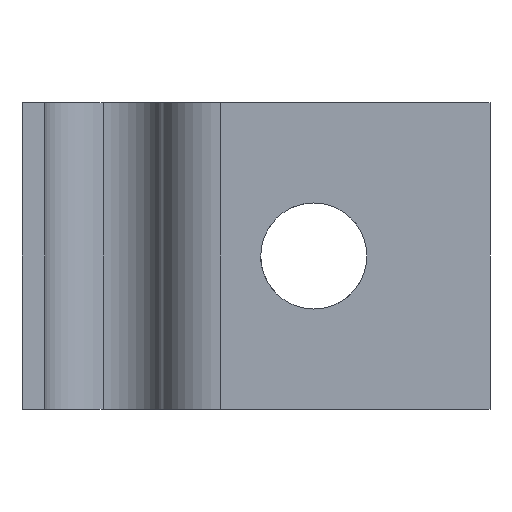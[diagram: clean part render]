
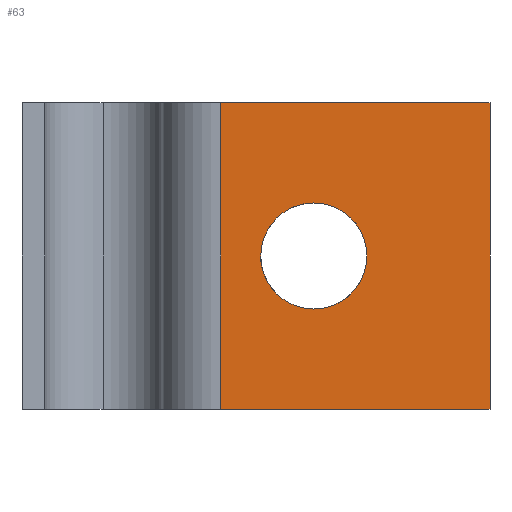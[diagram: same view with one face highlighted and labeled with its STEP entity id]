
A CAD part, front view. The second image highlights one B-rep face of the part: STEP entity #63.
In plain terms, the highlighted planar face has unit normal (0, -1, 0).
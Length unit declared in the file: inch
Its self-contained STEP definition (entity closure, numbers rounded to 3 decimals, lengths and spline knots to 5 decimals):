
#63=ADVANCED_FACE('',(#127,#128),#129,.T.);
#127=FACE_BOUND('',#232,.T.);
#128=FACE_OUTER_BOUND('',#233,.T.);
#129=PLANE('',#234);
#232=EDGE_LOOP('',(#348,#349,#350,#351));
#233=EDGE_LOOP('',(#352,#353,#354,#355));
#234=AXIS2_PLACEMENT_3D('',#356,#357,#358);
#348=ORIENTED_EDGE('',*,*,#465,.T.);
#349=ORIENTED_EDGE('',*,*,#435,.T.);
#350=ORIENTED_EDGE('',*,*,#471,.T.);
#351=ORIENTED_EDGE('',*,*,#440,.T.);
#352=ORIENTED_EDGE('',*,*,#472,.T.);
#353=ORIENTED_EDGE('',*,*,#431,.F.);
#354=ORIENTED_EDGE('',*,*,#473,.F.);
#355=ORIENTED_EDGE('',*,*,#450,.T.);
#356=CARTESIAN_POINT('',(0.88399,-0.12583,0.0));
#357=DIRECTION('',(0.0,-1.0,0.0));
#358=DIRECTION('',(1.0,0.0,-0.0));
#431=EDGE_CURVE('',#500,#495,#502,.T.);
#435=EDGE_CURVE('',#509,#507,#510,.T.);
#440=EDGE_CURVE('',#518,#516,#519,.T.);
#450=EDGE_CURVE('',#535,#533,#536,.T.);
#465=EDGE_CURVE('',#516,#509,#558,.T.);
#471=EDGE_CURVE('',#507,#518,#566,.T.);
#472=EDGE_CURVE('',#533,#495,#567,.T.);
#473=EDGE_CURVE('',#535,#500,#568,.T.);
#495=VERTEX_POINT('',#594);
#500=VERTEX_POINT('',#603);
#502=LINE('',#608,#609);
#507=VERTEX_POINT('',#617);
#509=VERTEX_POINT('',#620);
#510=B_SPLINE_CURVE_WITH_KNOTS('',3,(#621,#622,#623,#624),.UNSPECIFIED.,.F.,.F.,(4,4),(0.0,1.0),.UNSPECIFIED.);
#516=VERTEX_POINT('',#634);
#518=VERTEX_POINT('',#637);
#519=B_SPLINE_CURVE_WITH_KNOTS('',3,(#638,#639,#640,#641),.UNSPECIFIED.,.F.,.F.,(4,4),(0.0,1.0),.UNSPECIFIED.);
#533=VERTEX_POINT('',#664);
#535=VERTEX_POINT('',#667);
#536=LINE('',#668,#669);
#558=B_SPLINE_CURVE_WITH_KNOTS('',3,(#706,#707,#708,#709),.UNSPECIFIED.,.F.,.F.,(4,4),(0.0,1.0),.UNSPECIFIED.);
#566=B_SPLINE_CURVE_WITH_KNOTS('',3,(#724,#725,#726,#727),.UNSPECIFIED.,.F.,.F.,(4,4),(0.0,1.0),.UNSPECIFIED.);
#567=LINE('',#728,#729);
#568=LINE('',#730,#731);
#594=CARTESIAN_POINT('',(0.52703,-0.12583,0.8125));
#603=CARTESIAN_POINT('',(0.52703,-0.12583,0.0));
#608=CARTESIAN_POINT('',(0.52703,-0.12583,0.0));
#609=VECTOR('',#781,1.0);
#617=CARTESIAN_POINT('',(0.9144,-0.12583,0.40625));
#620=CARTESIAN_POINT('',(0.77375,-0.12583,0.5469));
#621=CARTESIAN_POINT('',(0.77375,-0.12583,0.5469));
#622=CARTESIAN_POINT('',(0.85143,-0.12583,0.5469));
#623=CARTESIAN_POINT('',(0.9144,-0.12583,0.48393));
#624=CARTESIAN_POINT('',(0.9144,-0.12583,0.40625));
#634=CARTESIAN_POINT('',(0.6331,-0.12583,0.40625));
#637=CARTESIAN_POINT('',(0.77375,-0.12583,0.2656));
#638=CARTESIAN_POINT('',(0.77375,-0.12583,0.2656));
#639=CARTESIAN_POINT('',(0.69607,-0.12583,0.2656));
#640=CARTESIAN_POINT('',(0.6331,-0.12583,0.32857));
#641=CARTESIAN_POINT('',(0.6331,-0.12583,0.40625));
#664=CARTESIAN_POINT('',(1.24095,-0.12583,0.8125));
#667=CARTESIAN_POINT('',(1.24095,-0.12583,0.0));
#668=CARTESIAN_POINT('',(1.24095,-0.12583,0.0));
#669=VECTOR('',#789,1.0);
#706=CARTESIAN_POINT('',(0.6331,-0.12583,0.40625));
#707=CARTESIAN_POINT('',(0.6331,-0.12583,0.48393));
#708=CARTESIAN_POINT('',(0.69607,-0.12583,0.5469));
#709=CARTESIAN_POINT('',(0.77375,-0.12583,0.5469));
#724=CARTESIAN_POINT('',(0.9144,-0.12583,0.40625));
#725=CARTESIAN_POINT('',(0.9144,-0.12583,0.32857));
#726=CARTESIAN_POINT('',(0.85143,-0.12583,0.2656));
#727=CARTESIAN_POINT('',(0.77375,-0.12583,0.2656));
#728=CARTESIAN_POINT('',(1.24095,-0.12583,0.8125));
#729=VECTOR('',#800,1.0);
#730=CARTESIAN_POINT('',(1.24095,-0.12583,0.0));
#731=VECTOR('',#801,1.0);
#781=DIRECTION('',(0.0,0.0,1.0));
#789=DIRECTION('',(0.0,0.0,1.0));
#800=DIRECTION('',(-1.0,0.0,0.0));
#801=DIRECTION('',(-1.0,0.0,0.0));
